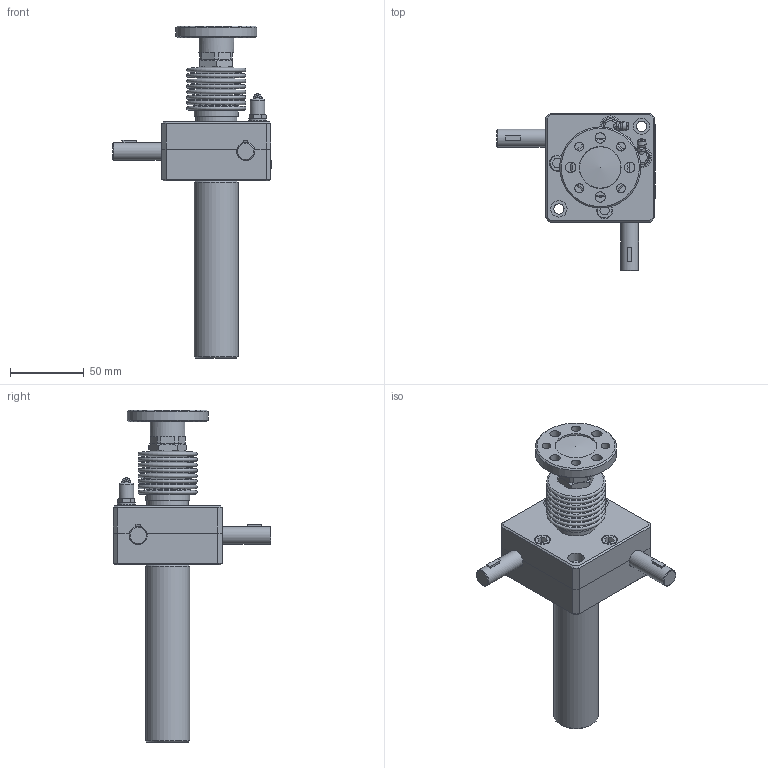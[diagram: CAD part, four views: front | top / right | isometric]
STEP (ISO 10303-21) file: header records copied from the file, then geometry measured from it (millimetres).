
FILE_DESCRIPTION(('STEP AP203'),'1');
FILE_NAME('SP1-300FCJ-100ST_CAP.stp','2016-08-18T01:51:52',(' '),(' '),'Spatial InterOp 3D',' ',' ');
FILE_SCHEMA(('CONFIG_CONTROL_DESIGN'));
Length unit declared in the file: millimetre
Products named in the file (28): SP1-300FCJ-100ST_CAP; Rack Gear(SP-300FC); Belloew(SP-300); Flange-Part; Joint; Flange; Nut; Body-Part; Nipple; Bolt; Key; Shaft; Gear Box(Upper); Gear Box(Lower); RJ05-4SCJ-610X600-100ST_CAP; LABEL-B.1; ___; 파트18; __; Cap-Part; Cap; SnapRing; Cover
Assembly tree (27 placements, depth 6):
  SP1-300FCJ-100ST_CAP
    Rack Gear(SP-300FC)
    Belloew(SP-300)
    Flange-Part
      Joint
      Flange
      Nut
    Body-Part
      Nipple
      Nipple
      Bolt
      Bolt
      Bolt
      Key
      Key
      Shaft
      Shaft
      Gear Box(Upper)
      Gear Box(Lower)
      __
        ___
          RJ05-4SCJ-610X600-100ST_CAP
            LABEL-B.1
          파트18
    Cap-Part
      Cap
      SnapRing
      Cover
Bounding box: 107.17 x 107 x 225 mm (x, y, z)
Volume: 244199.2 mm3; surface area: 146139.4 mm2
Topology: 35 solids, 35 shells, 2857 faces, 7917 edges, 5221 vertices
Faces by surface type: plane 2494, cylinder 164, cone 82, revolution 42, extrusion 38, torus 28, sphere 9
Full cylindrical faces by diameter (mm): 1.525 x2, 4.8 x2, 6 x10, 7 x11, 9 x2, 9.886 x2, 11 x8, 12 x4, 13.8 x1, 15 x2, 17 x1, 18 x1, 18.856 x9, 19 x2, 20 x2, 20.3 x2, 21.3 x2, 23 x1, 24 x2, 24.3 x1, 25 x1, 26 x3, 26.2 x1, 27 x2, 27.2 x1, 28 x4, 28.3 x1, 30 x2, 55 x1
Entity records: 90578 total; most frequent: CARTESIAN_POINT 17348, ORIENTED_EDGE 15186, DIRECTION 13745, EDGE_CURVE 7593, VECTOR 6763, LINE 6725, VERTEX_POINT 5122, AXIS2_PLACEMENT_3D 3470
